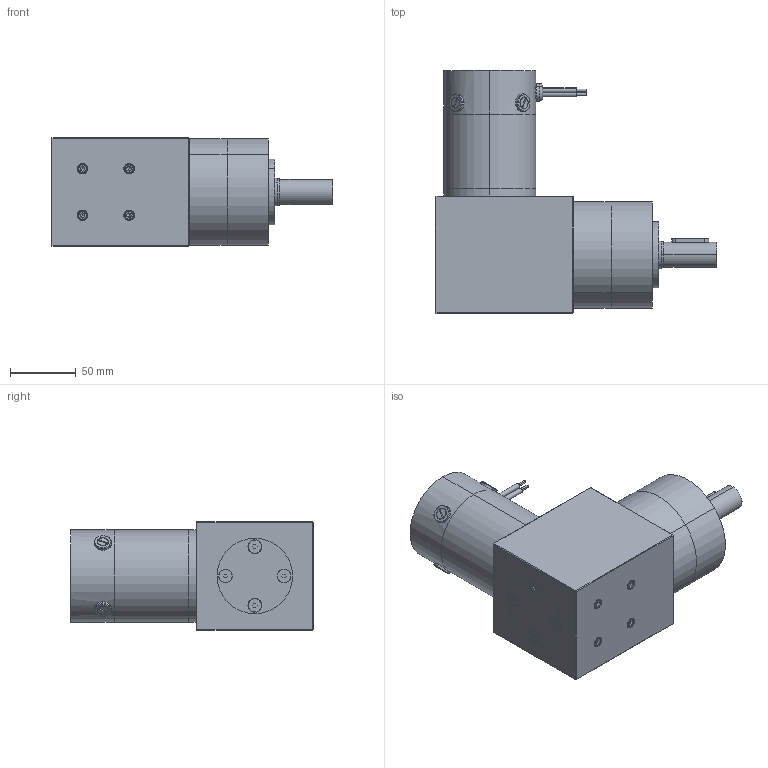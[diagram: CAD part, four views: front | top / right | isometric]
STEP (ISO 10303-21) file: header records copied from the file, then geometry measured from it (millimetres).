
FILE_DESCRIPTION (( 'STEP AP203' ), '1' );
FILE_NAME ('s27411bgra1.step', '2018-12-07T20:06:52', ( '' ), ( '' ), 'SwSTEP 2.0', 'SolidWorks 2017', '' );
FILE_SCHEMA (( 'CONFIG_CONTROL_DESIGN' ));
Length unit declared in the file: inch
Products named in the file (1): s27411bgra1
Bounding box: 213.32 x 184.15 x 82.55 mm (x, y, z)
Volume: 1460764 mm3; surface area: 185358.2 mm2
Topology: 27 solids, 27 shells, 1098 faces, 2779 edges, 1784 vertices
Faces by surface type: cylinder 689, plane 294, cone 89, torus 14, bspline 8, sphere 4
Entity records: 52358 total; most frequent: CARTESIAN_POINT 28543, ORIENTED_EDGE 5510, DIRECTION 4454, EDGE_CURVE 2755, VERTEX_POINT 1784, AXIS2_PLACEMENT_3D 1638, EDGE_LOOP 1203, LINE 1178
